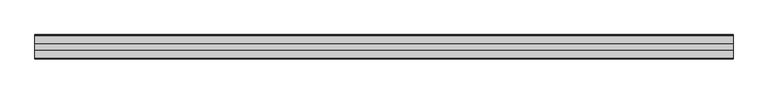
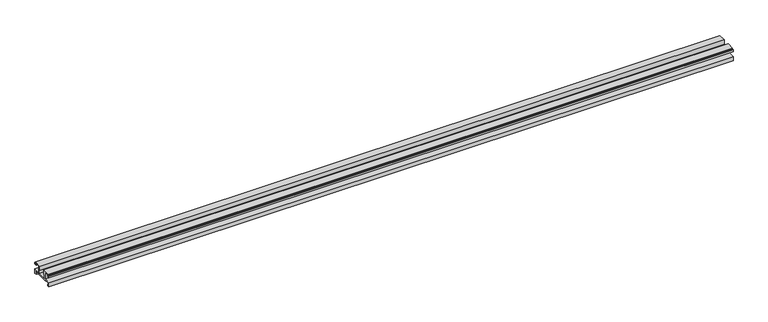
"""IFC4 building model written with IfcOpenShell, lengths in millimetres: proxy geometry, Weiku - Montante - Acoplamento vidro : Weiku - Montante - Acoplamento vidro."""

from ifc_helpers import new_model, si_unit, frame, origin, place, context, project, spatial, polyline, outline, extrude, source, transform, mapped, element, save


def generic_models_af49cd85(model_context):
    return source(origin(), model_context, "Body", "SweptSolid", [
        extrude(outline(polyline([(-35.405, 5.1494), (-35.405, 6.8004), (-45.741, 6.8004), (-45.741, 2.6094), (-43.8784, 2.6094), (-43.8784, 0.0), (-47.9014508, 0.0), (-47.9014508, 8.79), (-34.946, 8.79), (-34.946, 23.3104), (-43.5397, 23.3104), (-43.5397, 19.204), (-47.9, 19.204), (-47.9, 22.8024), (-46.9264, 22.8024), (-46.9264, 20.3894), (-44.725, 20.3894), (-44.725, 23.9454), (-45.5264504, 23.9454), (-45.5264504, 25.3), (-30.4164, 25.3), (-30.4164, 16.283), (-32.4484, 16.283), (-32.4484, 8.8), (-15.4516, 8.8), (-15.4516, 16.283), (-17.4836, 16.283), (-17.4836, 25.3), (-2.3735496, 25.3), (-2.3735496, 23.9454), (-3.175, 23.9454), (-3.175, 20.3894), (-0.9736, 20.3894), (-0.9736, 22.8024), (0.0, 22.8024), (0.0, 19.204), (-4.3603, 19.204), (-4.3603, 23.3104), (-12.954, 23.3104), (-12.954, 8.79), (0.0014508, 8.79), (0.0014508, 0.0), (-4.0216, 0.0), (-4.0216, 2.6094), (-2.159, 2.6094), (-2.159, 6.8004), (-12.495, 6.8004), (-12.495, 5.1494), (-35.405, 5.1494)])), frame((-680.5, 0.0, 0.0), z_axis=(1.0, 0.0, 0.0), x_axis=(0.0, 1.0, 0.0)), (0.0, 0.0, 1.0), 1361.0),
    ])


if __name__ == "__main__":
    model = new_model("IFC4")
    model_context = context("Model", 3, world=origin())
    ifc_project = project(units=[si_unit("LENGTHUNIT", "METRE", prefix="MILLI")], contexts=[model_context])
    site = spatial("IfcSite", under=ifc_project)
    building = spatial("IfcBuilding", under=site)
    placement = place(None, origin())
    generic_models_shape = generic_models_af49cd85(model_context)
    element("IfcBuildingElementProxy", 1, Name="Weiku - Montante - Acoplamento vidro : Weiku - Montante - Acoplamento vidro", ObjectType="Weiku - Montante - Acoplamento vidro : Weiku - Montante - Acoplamento vidro", at=placement, inside=building, context=model_context, shape_type="MappedRepresentation", body=[
        mapped(generic_models_shape, transform((0.0, 0.0, 0.0), x_axis=(1.0, 0.0, 0.0), y_axis=(0.0, 1.0, 0.0), z_axis=(0.0, 0.0, 1.0))),
    ])
    save(model, "model.ifc")
